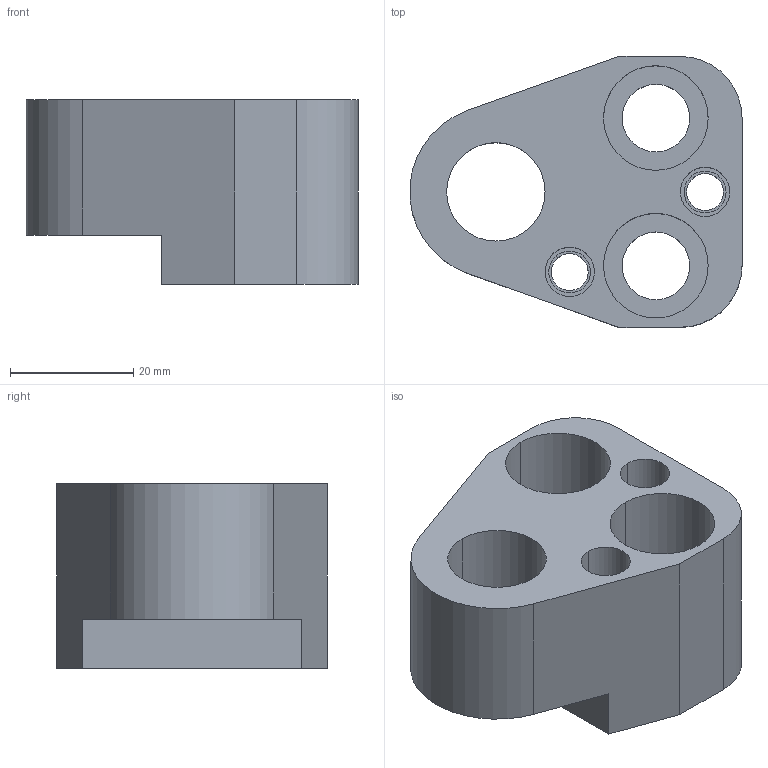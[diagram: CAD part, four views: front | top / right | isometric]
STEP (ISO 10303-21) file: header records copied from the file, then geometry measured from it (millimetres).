
FILE_DESCRIPTION(/* description */ (''),/* implementation_level */ '2;1');
FILE_NAME(/* name */ '3d_ap-fn16_03192_r00.stp',/* time_stamp */ '2011-01-10T14:17:46+09:00',/* author */ ('MISUMI'),/* organization */ (''),/* preprocessor_version */ 'ST-DEVELOPER v11',/* originating_system */ 'UGS - NX 5.0',/* authorisation */ '');
FILE_SCHEMA (('CONFIG_CONTROL_DESIGN'));
Length unit declared in the file: millimetre
Products named in the file (1): 3d_ap-fn16_03192_r00
Bounding box: 53.95 x 44 x 30 mm (x, y, z)
Volume: 35669.2 mm3; surface area: 12551.3 mm2
Topology: 1 solids, 1 shells, 42 faces, 104 edges, 69 vertices
Faces by surface type: cylinder 25, plane 15, cone 2
Entity records: 1382 total; most frequent: DIRECTION 242, CARTESIAN_POINT 221, ORIENTED_EDGE 208, EDGE_CURVE 104, AXIS2_PLACEMENT_3D 96, VERTEX_POINT 69, EDGE_LOOP 57, CIRCLE 53
